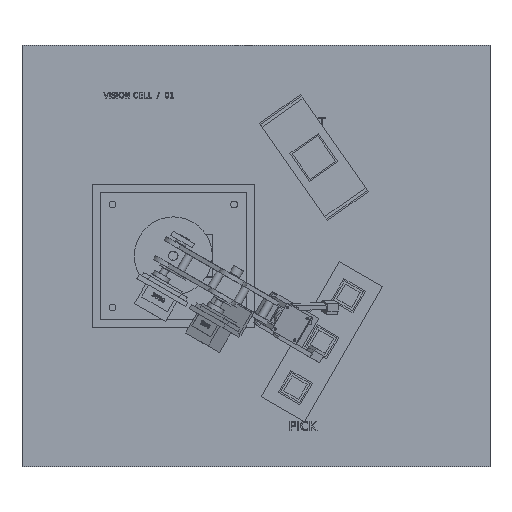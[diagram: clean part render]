
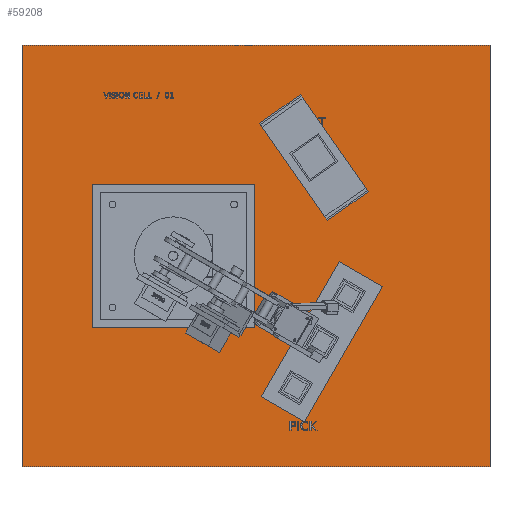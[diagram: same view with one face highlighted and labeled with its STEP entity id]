
A CAD part, top view. The second image highlights one B-rep face of the part: STEP entity #59208.
In plain terms, the highlighted planar face has unit normal (0, 0, 1).
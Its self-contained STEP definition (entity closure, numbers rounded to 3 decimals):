
#58894 = VERTEX_POINT('',#58895);
#58895 = CARTESIAN_POINT('',(-97.,-135.,-1.));
#58902 = PLANE('',#58903);
#58903 = AXIS2_PLACEMENT_3D('',#58904,#58905,#58906);
#58904 = CARTESIAN_POINT('',(-97.,-135.,-6.));
#58905 = DIRECTION('',(1.,0.,0.));
#58906 = DIRECTION('',(0.,0.,1.));
#58914 = PLANE('',#58915);
#58915 = AXIS2_PLACEMENT_3D('',#58916,#58917,#58918);
#58916 = CARTESIAN_POINT('',(-97.,-135.,-6.));
#58917 = DIRECTION('',(0.,1.,0.));
#58918 = DIRECTION('',(0.,0.,1.));
#58955 = VERTEX_POINT('',#58956);
#58956 = CARTESIAN_POINT('',(-97.,135.,-1.));
#58970 = PLANE('',#58971);
#58971 = AXIS2_PLACEMENT_3D('',#58972,#58973,#58974);
#58972 = CARTESIAN_POINT('',(-97.,135.,-6.));
#58973 = DIRECTION('',(0.,1.,0.));
#58974 = DIRECTION('',(0.,0.,1.));
#58982 = EDGE_CURVE('',#58894,#58955,#58983,.T.);
#58983 = SURFACE_CURVE('',#58984,(#58988,#58995),.PCURVE_S1.);
#58984 = LINE('',#58985,#58986);
#58985 = CARTESIAN_POINT('',(-97.,-135.,-1.));
#58986 = VECTOR('',#58987,1.);
#58987 = DIRECTION('',(0.,1.,0.));
#58988 = PCURVE('',#58902,#58989);
#58989 = DEFINITIONAL_REPRESENTATION('',(#58990),#58994);
#58990 = LINE('',#58991,#58992);
#58991 = CARTESIAN_POINT('',(5.,0.));
#58992 = VECTOR('',#58993,1.);
#58993 = DIRECTION('',(0.,-1.));
#58994 = ( GEOMETRIC_REPRESENTATION_CONTEXT(2) 
PARAMETRIC_REPRESENTATION_CONTEXT() REPRESENTATION_CONTEXT('2D SPACE',''
  ) );
#58995 = PCURVE('',#58996,#59001);
#58996 = PLANE('',#58997);
#58997 = AXIS2_PLACEMENT_3D('',#58998,#58999,#59000);
#58998 = CARTESIAN_POINT('',(-97.,-135.,-1.));
#58999 = DIRECTION('',(0.,0.,1.));
#59000 = DIRECTION('',(1.,0.,0.));
#59001 = DEFINITIONAL_REPRESENTATION('',(#59002),#59006);
#59002 = LINE('',#59003,#59004);
#59003 = CARTESIAN_POINT('',(0.,0.));
#59004 = VECTOR('',#59005,1.);
#59005 = DIRECTION('',(0.,1.));
#59006 = ( GEOMETRIC_REPRESENTATION_CONTEXT(2) 
PARAMETRIC_REPRESENTATION_CONTEXT() REPRESENTATION_CONTEXT('2D SPACE',''
  ) );
#59014 = VERTEX_POINT('',#59015);
#59015 = CARTESIAN_POINT('',(203.,-135.,-1.));
#59022 = PLANE('',#59023);
#59023 = AXIS2_PLACEMENT_3D('',#59024,#59025,#59026);
#59024 = CARTESIAN_POINT('',(203.,-135.,-6.));
#59025 = DIRECTION('',(1.,0.,0.));
#59026 = DIRECTION('',(0.,0.,1.));
#59065 = VERTEX_POINT('',#59066);
#59066 = CARTESIAN_POINT('',(203.,135.,-1.));
#59087 = EDGE_CURVE('',#59014,#59065,#59088,.T.);
#59088 = SURFACE_CURVE('',#59089,(#59093,#59100),.PCURVE_S1.);
#59089 = LINE('',#59090,#59091);
#59090 = CARTESIAN_POINT('',(203.,-135.,-1.));
#59091 = VECTOR('',#59092,1.);
#59092 = DIRECTION('',(0.,1.,0.));
#59093 = PCURVE('',#59022,#59094);
#59094 = DEFINITIONAL_REPRESENTATION('',(#59095),#59099);
#59095 = LINE('',#59096,#59097);
#59096 = CARTESIAN_POINT('',(5.,0.));
#59097 = VECTOR('',#59098,1.);
#59098 = DIRECTION('',(0.,-1.));
#59099 = ( GEOMETRIC_REPRESENTATION_CONTEXT(2) 
PARAMETRIC_REPRESENTATION_CONTEXT() REPRESENTATION_CONTEXT('2D SPACE',''
  ) );
#59100 = PCURVE('',#58996,#59101);
#59101 = DEFINITIONAL_REPRESENTATION('',(#59102),#59106);
#59102 = LINE('',#59103,#59104);
#59103 = CARTESIAN_POINT('',(300.,0.));
#59104 = VECTOR('',#59105,1.);
#59105 = DIRECTION('',(0.,1.));
#59106 = ( GEOMETRIC_REPRESENTATION_CONTEXT(2) 
PARAMETRIC_REPRESENTATION_CONTEXT() REPRESENTATION_CONTEXT('2D SPACE',''
  ) );
#59133 = EDGE_CURVE('',#58894,#59014,#59134,.T.);
#59134 = SURFACE_CURVE('',#59135,(#59139,#59146),.PCURVE_S1.);
#59135 = LINE('',#59136,#59137);
#59136 = CARTESIAN_POINT('',(-97.,-135.,-1.));
#59137 = VECTOR('',#59138,1.);
#59138 = DIRECTION('',(1.,0.,0.));
#59139 = PCURVE('',#58914,#59140);
#59140 = DEFINITIONAL_REPRESENTATION('',(#59141),#59145);
#59141 = LINE('',#59142,#59143);
#59142 = CARTESIAN_POINT('',(5.,0.));
#59143 = VECTOR('',#59144,1.);
#59144 = DIRECTION('',(0.,1.));
#59145 = ( GEOMETRIC_REPRESENTATION_CONTEXT(2) 
PARAMETRIC_REPRESENTATION_CONTEXT() REPRESENTATION_CONTEXT('2D SPACE',''
  ) );
#59146 = PCURVE('',#58996,#59147);
#59147 = DEFINITIONAL_REPRESENTATION('',(#59148),#59152);
#59148 = LINE('',#59149,#59150);
#59149 = CARTESIAN_POINT('',(0.,0.));
#59150 = VECTOR('',#59151,1.);
#59151 = DIRECTION('',(1.,0.));
#59152 = ( GEOMETRIC_REPRESENTATION_CONTEXT(2) 
PARAMETRIC_REPRESENTATION_CONTEXT() REPRESENTATION_CONTEXT('2D SPACE',''
  ) );
#59180 = EDGE_CURVE('',#58955,#59065,#59181,.T.);
#59181 = SURFACE_CURVE('',#59182,(#59186,#59193),.PCURVE_S1.);
#59182 = LINE('',#59183,#59184);
#59183 = CARTESIAN_POINT('',(-97.,135.,-1.));
#59184 = VECTOR('',#59185,1.);
#59185 = DIRECTION('',(1.,0.,0.));
#59186 = PCURVE('',#58970,#59187);
#59187 = DEFINITIONAL_REPRESENTATION('',(#59188),#59192);
#59188 = LINE('',#59189,#59190);
#59189 = CARTESIAN_POINT('',(5.,0.));
#59190 = VECTOR('',#59191,1.);
#59191 = DIRECTION('',(0.,1.));
#59192 = ( GEOMETRIC_REPRESENTATION_CONTEXT(2) 
PARAMETRIC_REPRESENTATION_CONTEXT() REPRESENTATION_CONTEXT('2D SPACE',''
  ) );
#59193 = PCURVE('',#58996,#59194);
#59194 = DEFINITIONAL_REPRESENTATION('',(#59195),#59199);
#59195 = LINE('',#59196,#59197);
#59196 = CARTESIAN_POINT('',(0.,270.));
#59197 = VECTOR('',#59198,1.);
#59198 = DIRECTION('',(1.,0.));
#59199 = ( GEOMETRIC_REPRESENTATION_CONTEXT(2) 
PARAMETRIC_REPRESENTATION_CONTEXT() REPRESENTATION_CONTEXT('2D SPACE',''
  ) );
#59208 = ADVANCED_FACE('',(#59209),#58996,.T.);
#59209 = FACE_BOUND('',#59210,.T.);
#59210 = EDGE_LOOP('',(#59211,#59212,#59213,#59214));
#59211 = ORIENTED_EDGE('',*,*,#58982,.F.);
#59212 = ORIENTED_EDGE('',*,*,#59133,.T.);
#59213 = ORIENTED_EDGE('',*,*,#59087,.T.);
#59214 = ORIENTED_EDGE('',*,*,#59180,.F.);
